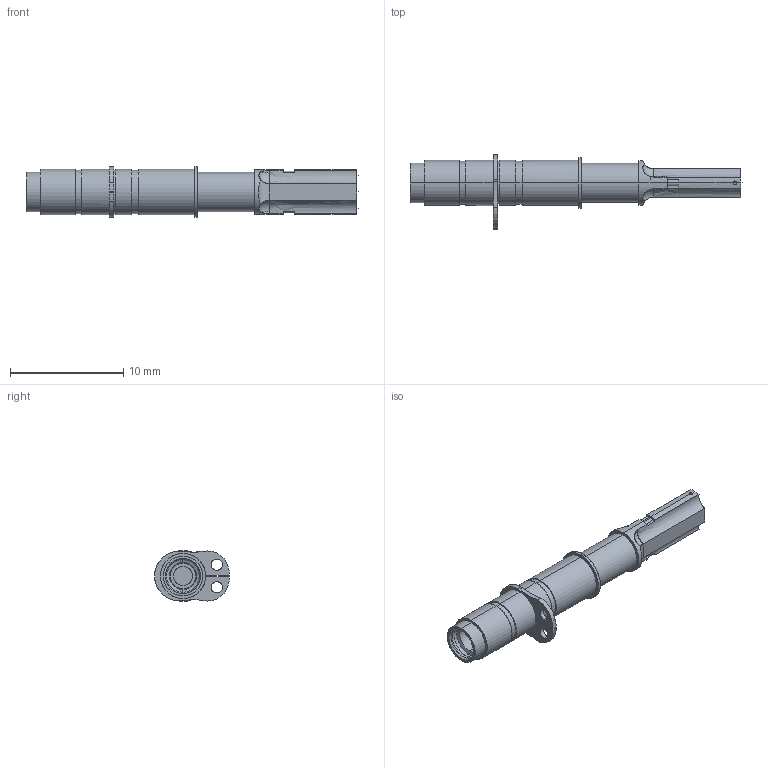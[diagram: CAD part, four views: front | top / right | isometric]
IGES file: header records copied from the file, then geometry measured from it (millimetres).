
Start section: SolidWorks IGES file using analytic representation for surfaces
Global section: file name: Y:\HomeCPG\probe solid model mockups\Solidworks models\Non-catalog IGES files\CSP-40B-012 IGES files\CSP-40B-012 Full.IGS; native system: SolidWorks 2006 by SolidWorks Corporation; preprocessor: SolidWorks 2006 by SolidWorks Corporation; author: tsakatani; date: 080129.133604; units: inch
Bounding box: 29.36 x 6.63 x 4.5 mm (x, y, z)
Surface area: 683.4 mm2 (no closed solid volume)
Topology: 0 solids, 0 shells, 178 faces, 2261 edges, 2255 vertices
Faces by surface type: revolution 117, bspline 61
